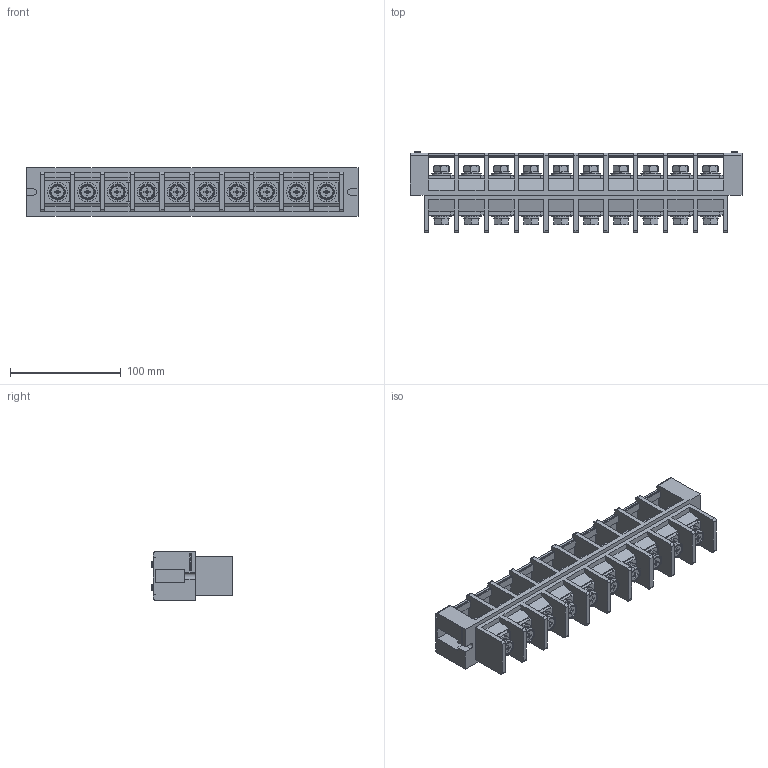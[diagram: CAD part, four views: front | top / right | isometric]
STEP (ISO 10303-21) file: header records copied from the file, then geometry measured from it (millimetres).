
FILE_DESCRIPTION(/* description */ ('Alibre Inc.'),/* implementation_level */ '2;1');
FILE_NAME(/* name */ 'export0',/* time_stamp */ '2016-04-05T18:48:41+09:00',/* author */ (''),/* organization */ (''),/* preprocessor_version */ 'ST-DEVELOPER v14',/* originating_system */ 'Alibre',/* authorisation */ '');
FILE_SCHEMA (('CONFIG_CONTROL_DESIGN'));
Length unit declared in the file: centimetre
Products named in the file (1): ID_1
Bounding box: 300 x 73.94 x 44 mm (x, y, z)
Volume: 351248.2 mm3; surface area: 162055.2 mm2
Topology: 2 solids, 4 shells, 1808 faces, 4955 edges, 3176 vertices
Faces by surface type: plane 1348, cone 248, cylinder 156, bspline 52, sphere 2, torus 2
Full cylindrical faces by diameter (mm): 3 x4, 5.5 x2, 8 x20, 18 x20
Entity records: 50908 total; most frequent: CARTESIAN_POINT 9905, ORIENTED_EDGE 9690, DIRECTION 6516, EDGE_CURVE 4845, VERTEX_POINT 3154, VECTOR 3018, LINE 3018, AXIS2_PLACEMENT_3D 2309
